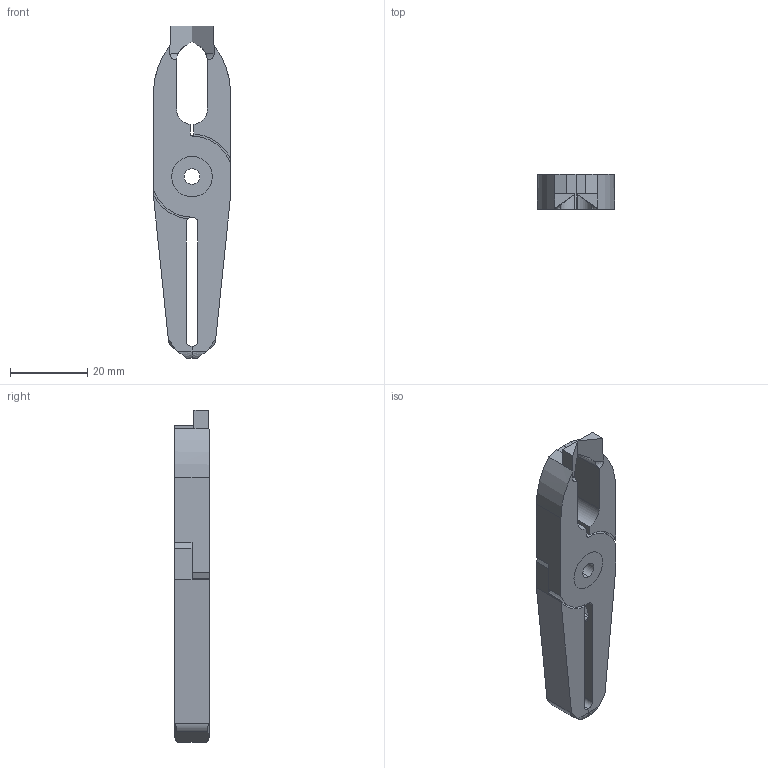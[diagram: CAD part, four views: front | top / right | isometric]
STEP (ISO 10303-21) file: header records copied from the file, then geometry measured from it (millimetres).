
FILE_DESCRIPTION (( 'STEP AP214' ), '1' );
FILE_NAME ('NT10AD.STEP', '2019-11-29T00:39:18', ( '微软用户' ), ( '微软中国' ), 'SwSTEP 2.0', 'SolidWorks 2016', '' );
FILE_SCHEMA (( 'AUTOMOTIVE_DESIGN' ));
Length unit declared in the file: millimetre
Products named in the file (4): BR2; BR1; BS; NT10AD
Assembly tree (3 placements, depth 2):
  NT10AD
    BS
    BR1
    BR2
Bounding box: 20 x 9 x 86 mm (x, y, z)
Volume: 9928.2 mm3; surface area: 6926.6 mm2
Topology: 3 solids, 3 shells, 102 faces, 270 edges, 172 vertices
Faces by surface type: plane 46, cylinder 24, cone 16, bspline 16
Entity records: 3442 total; most frequent: CARTESIAN_POINT 866, ORIENTED_EDGE 532, DIRECTION 484, EDGE_CURVE 266, VERTEX_POINT 172, LINE 164, VECTOR 164, AXIS2_PLACEMENT_3D 160
